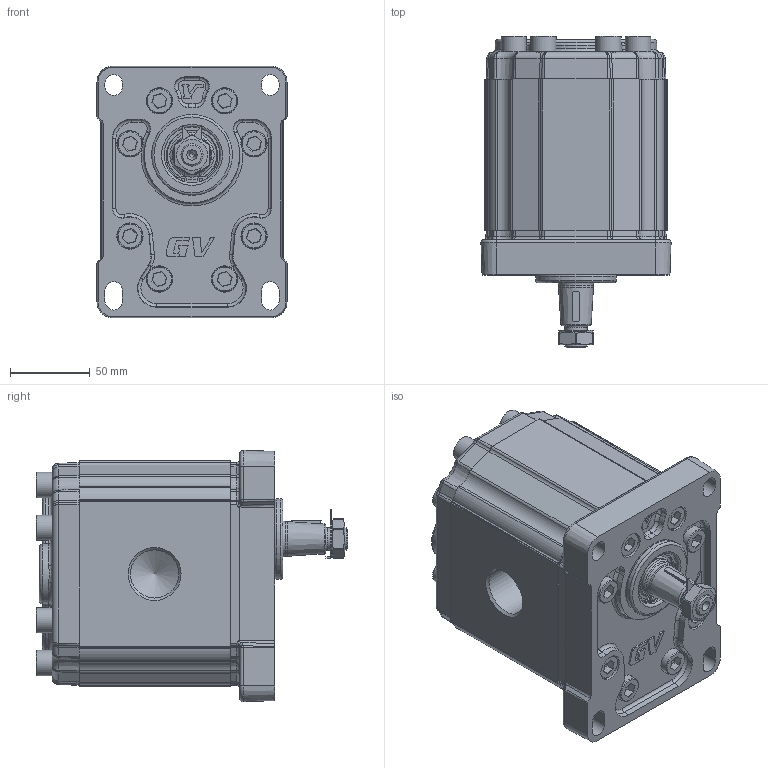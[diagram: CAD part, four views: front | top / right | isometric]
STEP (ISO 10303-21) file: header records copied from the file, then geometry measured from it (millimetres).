
FILE_DESCRIPTION(/* description */ ('Unknown'),/* implementation_level */ '2;1');
FILE_NAME(/* name */ 'G3P8101AEEA',/* time_stamp */ '2026-06-04T18:55:05+02:00',/* author */ ('Unknown'),/* organization */ ('Unknown'),/* preprocessor_version */ 'ST-DEVELOPER v16.7',/* originating_system */ 'Solid Edge',/* authorisation */ 'Unknown');
FILE_SCHEMA (('AUTOMOTIVE_DESIGN {1 0 10303 214 3 1 1}'));
Products named in the file (5): G3P8101AEEA; G3P01; 3A; G3EEH95; GP301-A
Assembly tree (4 placements, depth 2):
  G3P8101AEEA
    G3P01
    3A
    G3EEH95
    GP301-A
Bounding box: 119.5 x 196 x 158.1 mm (x, y, z)
Volume: 2110644 mm3; surface area: 212379.8 mm2
Topology: 4 solids, 5 shells, 2699 faces, 9068 edges, 5641 vertices
Faces by surface type: cylinder 1458, plane 917, cone 126, bspline 102, torus 96
Full cylindrical faces by diameter (mm): 2 x2, 6 x2, 10 x16, 10.5 x16, 14 x2, 15.8 x16, 16 x16, 16.5 x8, 17 x8, 22 x1, 24.98 x1, 25 x2, 25.968 x1, 28.16 x1, 30.291 x2, 31 x1, 31.293 x1, 32.742 x1, 34.956 x1, 35 x1, 35.2 x1, 37 x1, 50.8 x1
Entity records: 132419 total; most frequent: CARTESIAN_POINT 36618, ORIENTED_EDGE 17604, DIRECTION 15232, EDGE_CURVE 8802, AXIS2_PLACEMENT_3D 5761, VERTEX_POINT 5567, LINE 3710, VECTOR 3710
